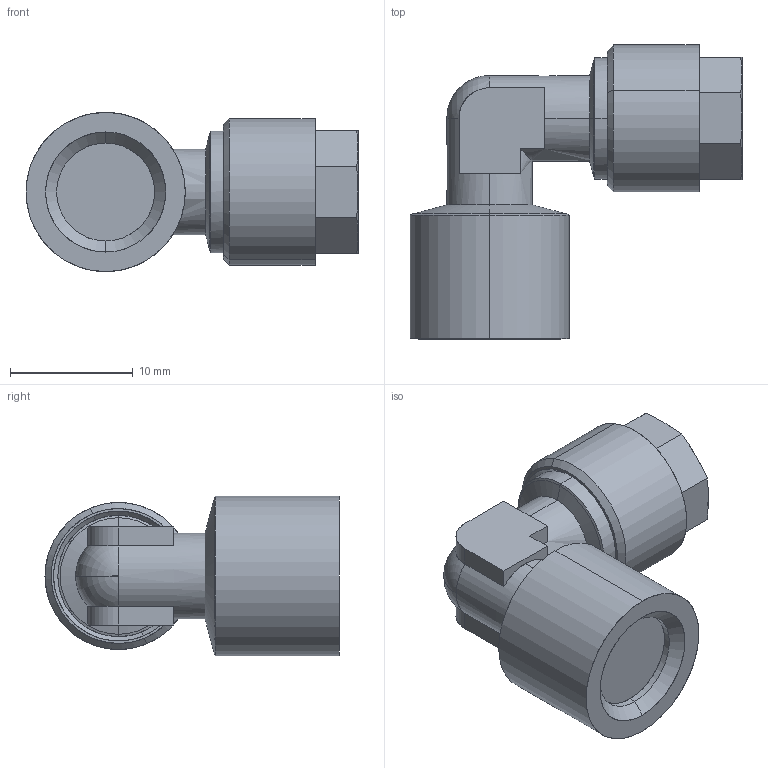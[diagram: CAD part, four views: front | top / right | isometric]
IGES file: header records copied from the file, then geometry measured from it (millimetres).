
Start section: SolidWorks IGES file using analytic representation for surfaces
Global section: file name: K:\Disegni Esecutivi\Serie 1000\Complessivi Serie 1000\1120\1120_iges\0112000002A.IGS; native system: SolidWorks 2008; preprocessor: SolidWorks 2008; author: cad05; date: 090121.171718; units: millimetre
Bounding box: 27.1 x 24 x 13 mm (x, y, z)
Surface area: 1686.2 mm2 (no closed solid volume)
Topology: 0 solids, 0 shells, 72 faces, 667 edges, 663 vertices
Faces by surface type: revolution 39, bspline 33
